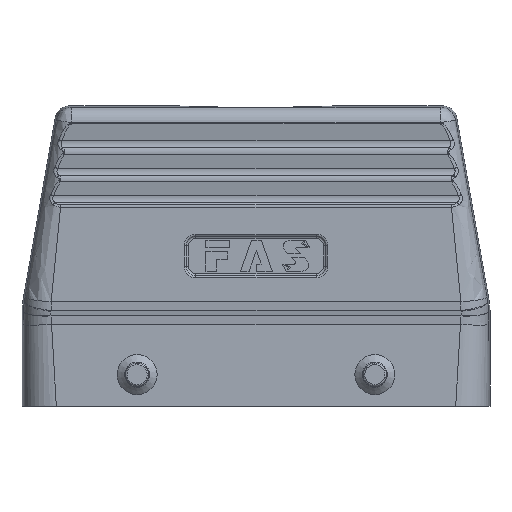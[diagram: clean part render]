
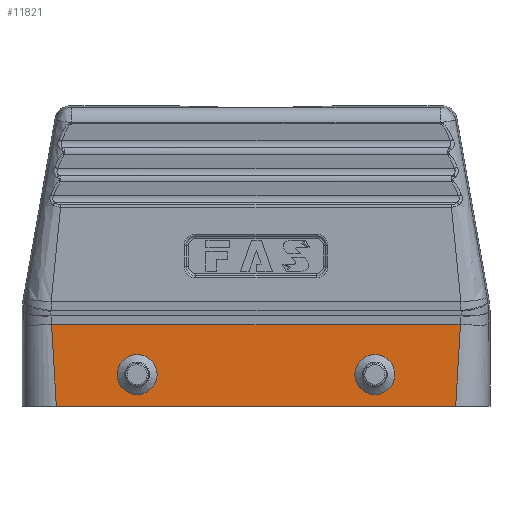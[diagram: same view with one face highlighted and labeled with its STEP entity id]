
A CAD part, front view. The second image highlights one B-rep face of the part: STEP entity #11821.
In plain terms, the highlighted planar face has unit normal (0, -1, 0).
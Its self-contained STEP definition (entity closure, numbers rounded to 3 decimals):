
#292 = CARTESIAN_POINT ( 'NONE',  ( 39.889, -21.5, 0. ) ) ;
#428 = CARTESIAN_POINT ( 'NONE',  ( -40.623, -21.5, 11.618 ) ) ;
#587 = CARTESIAN_POINT ( 'NONE',  ( -40.669, -21.5, 12.497 ) ) ;
#1284 = EDGE_LOOP ( 'NONE', ( #1544, #18603, #5628, #13215 ) ) ;
#1544 = ORIENTED_EDGE ( 'NONE', *, *, #21159, .T. ) ;
#1880 = VECTOR ( 'NONE', #13818, 1000. ) ;
#2335 = CARTESIAN_POINT ( 'NONE',  ( -40.815, -21.5, 15.576 ) ) ;
#2413 = CARTESIAN_POINT ( 'NONE',  ( -40.206, -21.5, 4.795 ) ) ;
#2480 = CARTESIAN_POINT ( 'NONE',  ( -40.387, -21.5, 7.634 ) ) ;
#2717 = PLANE ( 'NONE',  #6634 ) ;
#2973 = LINE ( 'NONE', #20976, #1880 ) ;
#3967 = CARTESIAN_POINT ( 'NONE',  ( -40.171, -21.5, 4.255 ) ) ;
#3982 = CARTESIAN_POINT ( 'NONE',  ( 40.706, -21.5, 12.744 ) ) ;
#4091 = VERTEX_POINT ( 'NONE', #12164 ) ;
#4196 = CARTESIAN_POINT ( 'NONE',  ( -40.163, -21.5, 4.123 ) ) ;
#4272 = DIRECTION ( 'NONE',  ( 0., 1., 0. ) ) ;
#5012 = LINE ( 'NONE', #16133, #19583 ) ;
#5605 = CARTESIAN_POINT ( 'NONE',  ( 40.377, -21.5, 7.314 ) ) ;
#5628 = ORIENTED_EDGE ( 'NONE', *, *, #20411, .F. ) ;
#5635 = AXIS2_PLACEMENT_3D ( 'NONE', #16495, #4272, #19808 ) ;
#5751 = CARTESIAN_POINT ( 'NONE',  ( -40.44, -21.5, 8.473 ) ) ;
#5834 = CARTESIAN_POINT ( 'NONE',  ( -40.422, -21.5, 8.183 ) ) ;
#5908 = CARTESIAN_POINT ( 'NONE',  ( -40.659, -21.5, 12.295 ) ) ;
#6060 = CARTESIAN_POINT ( 'NONE',  ( -40.657, -21.5, 12.255 ) ) ;
#6463 = CARTESIAN_POINT ( 'NONE',  ( 23.75, -21.5, 10.3 ) ) ;
#6634 = AXIS2_PLACEMENT_3D ( 'NONE', #13347, #11507, #16957 ) ;
#6961 = EDGE_CURVE ( 'NONE', #11803, #22434, #5012, .T. ) ;
#7516 = CARTESIAN_POINT ( 'NONE',  ( -40.16, -21.5, 4.082 ) ) ;
#7739 = CARTESIAN_POINT ( 'NONE',  ( -40.06, -21.5, 2.546 ) ) ;
#7810 = CARTESIAN_POINT ( 'NONE',  ( -40.662, -21.5, 12.356 ) ) ;
#7840 = DIRECTION ( 'NONE',  ( 1., 0., 0. ) ) ;
#8141 = CARTESIAN_POINT ( 'NONE',  ( -39.889, -21.5, 0. ) ) ;
#8184 = B_SPLINE_CURVE_WITH_KNOTS ( 'NONE', 3,
 ( #18252, #2335, #18326, #11267, #19887, #587, #7810, #5908, #6060, #10961, #428, #12888, #11038, #12732, #5751, #19962, #18023, #5834, #14502, #21719, #9362, #2480, #11190, #12966, #2413, #21645, #3967, #16262, #4196, #11114, #7516, #7739, #14585, #20039 ),
 .UNSPECIFIED., .F., .F.,
 ( 4, 1, 1, 1, 1, 1, 2, 2, 1, 1, 1, 1, 1, 1, 1, 2, 2, 1, 1, 1, 1, 1, 1, 2, 2, 4 ),
 ( 0., 0.125, 0.188, 0.219, 0.234, 0.242, 0.246, 0.25, 0.375, 0.438, 0.469, 0.484, 0.492, 0.496, 0.498, 0.499, 0.5, 0.625, 0.688, 0.719, 0.734, 0.742, 0.746, 0.748, 0.75, 1. ),
 .UNSPECIFIED. ) ;
#8925 = FACE_BOUND ( 'NONE', #21328, .T. ) ;
#9362 = CARTESIAN_POINT ( 'NONE',  ( -40.419, -21.5, 8.146 ) ) ;
#9576 = EDGE_LOOP ( 'NONE', ( #15581 ) ) ;
#10146 = DIRECTION ( 'NONE',  ( 0., 1., 0. ) ) ;
#10817 = CARTESIAN_POINT ( 'NONE',  ( 40.012, -21.5, 1.888 ) ) ;
#10867 = CARTESIAN_POINT ( 'NONE',  ( 39.889, -21.5, 0. ) ) ;
#10877 = CARTESIAN_POINT ( 'NONE',  ( -40.845, -21.5, 16.289 ) ) ;
#10961 = CARTESIAN_POINT ( 'NONE',  ( -40.656, -21.5, 12.233 ) ) ;
#10980 = ORIENTED_EDGE ( 'NONE', *, *, #20207, .T. ) ;
#11038 = CARTESIAN_POINT ( 'NONE',  ( -40.498, -21.5, 9.438 ) ) ;
#11114 = CARTESIAN_POINT ( 'NONE',  ( -40.161, -21.5, 4.097 ) ) ;
#11190 = CARTESIAN_POINT ( 'NONE',  ( -40.331, -21.5, 6.744 ) ) ;
#11267 = CARTESIAN_POINT ( 'NONE',  ( -40.713, -21.5, 13.357 ) ) ;
#11507 = DIRECTION ( 'NONE',  ( 0., -1., 0. ) ) ;
#11546 = VERTEX_POINT ( 'NONE', #16981 ) ;
#11803 = VERTEX_POINT ( 'NONE', #8141 ) ;
#11821 = ADVANCED_FACE ( 'NONE', ( #14407, #21009, #8925 ), #2717, .T. ) ;
#12164 = CARTESIAN_POINT ( 'NONE',  ( 40.845, -21.5, 16.289 ) ) ;
#12732 = CARTESIAN_POINT ( 'NONE',  ( -40.46, -21.5, 8.799 ) ) ;
#12888 = CARTESIAN_POINT ( 'NONE',  ( -40.571, -21.5, 10.662 ) ) ;
#12966 = CARTESIAN_POINT ( 'NONE',  ( -40.25, -21.5, 5.482 ) ) ;
#13215 = ORIENTED_EDGE ( 'NONE', *, *, #17592, .T. ) ;
#13347 = CARTESIAN_POINT ( 'NONE',  ( -73.25, -21.5, 0. ) ) ;
#13520 = DIRECTION ( 'NONE',  ( 0., 0., 1. ) ) ;
#13663 = VERTEX_POINT ( 'NONE', #10877 ) ;
#13818 = DIRECTION ( 'NONE',  ( -1., 0., 0. ) ) ;
#14407 = FACE_OUTER_BOUND ( 'NONE', #1284, .T. ) ;
#14471 = CIRCLE ( 'NONE', #5635, 4. ) ;
#14502 = CARTESIAN_POINT ( 'NONE',  ( -40.421, -21.5, 8.166 ) ) ;
#14585 = CARTESIAN_POINT ( 'NONE',  ( -39.97, -21.5, 1.189 ) ) ;
#14664 = B_SPLINE_CURVE_WITH_KNOTS ( 'NONE', 3,
 ( #19590, #3982, #5605, #10817, #292 ),
 .UNSPECIFIED., .F., .F.,
 ( 4, 1, 4 ),
 ( 0., 0.652, 1. ),
 .UNSPECIFIED. ) ;
#15337 = AXIS2_PLACEMENT_3D ( 'NONE', #15382, #10146, #13520 ) ;
#15382 = CARTESIAN_POINT ( 'NONE',  ( -23.75, -21.5, 6.3 ) ) ;
#15581 = ORIENTED_EDGE ( 'NONE', *, *, #21116, .T. ) ;
#16133 = CARTESIAN_POINT ( 'NONE',  ( -13.25, -21.5, 0. ) ) ;
#16262 = CARTESIAN_POINT ( 'NONE',  ( -40.165, -21.5, 4.163 ) ) ;
#16495 = CARTESIAN_POINT ( 'NONE',  ( 23.75, -21.5, 6.3 ) ) ;
#16957 = DIRECTION ( 'NONE',  ( 0., 0., -1. ) ) ;
#16981 = CARTESIAN_POINT ( 'NONE',  ( -23.75, -21.5, 10.3 ) ) ;
#17592 = EDGE_CURVE ( 'NONE', #4091, #13663, #2973, .T. ) ;
#18023 = CARTESIAN_POINT ( 'NONE',  ( -40.424, -21.5, 8.225 ) ) ;
#18252 = CARTESIAN_POINT ( 'NONE',  ( -40.845, -21.5, 16.289 ) ) ;
#18326 = CARTESIAN_POINT ( 'NONE',  ( -40.769, -21.5, 14.531 ) ) ;
#18603 = ORIENTED_EDGE ( 'NONE', *, *, #6961, .T. ) ;
#19583 = VECTOR ( 'NONE', #7840, 1000. ) ;
#19590 = CARTESIAN_POINT ( 'NONE',  ( 40.845, -21.5, 16.289 ) ) ;
#19808 = DIRECTION ( 'NONE',  ( 0., 0., 1. ) ) ;
#19887 = CARTESIAN_POINT ( 'NONE',  ( -40.684, -21.5, 12.782 ) ) ;
#19962 = CARTESIAN_POINT ( 'NONE',  ( -40.429, -21.5, 8.308 ) ) ;
#20039 = CARTESIAN_POINT ( 'NONE',  ( -39.889, -21.5, 0. ) ) ;
#20207 = EDGE_CURVE ( 'NONE', #11546, #11546, #21642, .T. ) ;
#20411 = EDGE_CURVE ( 'NONE', #4091, #22434, #14664, .T. ) ;
#20910 = VERTEX_POINT ( 'NONE', #6463 ) ;
#20976 = CARTESIAN_POINT ( 'NONE',  ( -73.25, -21.5, 16.289 ) ) ;
#21009 = FACE_BOUND ( 'NONE', #9576, .T. ) ;
#21116 = EDGE_CURVE ( 'NONE', #20910, #20910, #14471, .T. ) ;
#21159 = EDGE_CURVE ( 'NONE', #13663, #11803, #8184, .T. ) ;
#21328 = EDGE_LOOP ( 'NONE', ( #10980 ) ) ;
#21642 = CIRCLE ( 'NONE', #15337, 4. ) ;
#21645 = CARTESIAN_POINT ( 'NONE',  ( -40.183, -21.5, 4.437 ) ) ;
#21719 = CARTESIAN_POINT ( 'NONE',  ( -40.42, -21.5, 8.154 ) ) ;
#22434 = VERTEX_POINT ( 'NONE', #10867 ) ;
